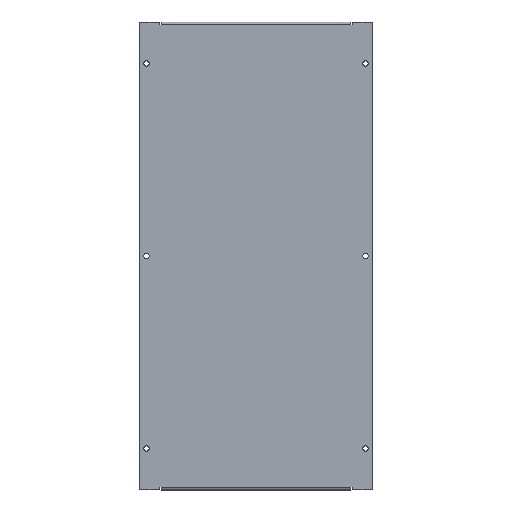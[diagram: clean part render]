
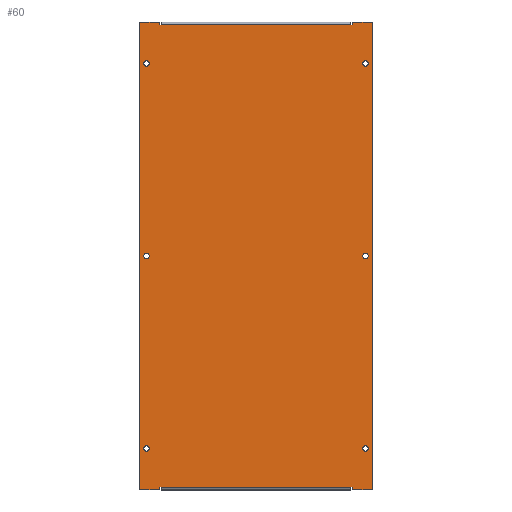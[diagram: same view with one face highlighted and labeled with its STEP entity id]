
A CAD part, top view. The second image highlights one B-rep face of the part: STEP entity #60.
In plain terms, the highlighted planar face has unit normal (0, 0, 1).
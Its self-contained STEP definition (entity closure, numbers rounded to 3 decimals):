
#60=ADVANCED_FACE('',(#166,#168,#170,#172,#174,#176,#178),#180,.F.);
#166=FACE_BOUND('',#167,.T.);
#167=EDGE_LOOP('',(#443,#444,#445,#446,#447,#448,#449,#450,#451,#452,#453,#454,#455,
#456,#457,#458));
#168=FACE_BOUND('',#169,.T.);
#169=EDGE_LOOP('',(#459));
#170=FACE_BOUND('',#171,.T.);
#171=EDGE_LOOP('',(#460));
#172=FACE_BOUND('',#173,.T.);
#173=EDGE_LOOP('',(#461));
#174=FACE_BOUND('',#175,.T.);
#175=EDGE_LOOP('',(#462));
#176=FACE_BOUND('',#177,.T.);
#177=EDGE_LOOP('',(#463));
#178=FACE_BOUND('',#179,.T.);
#179=EDGE_LOOP('',(#464));
#180=PLANE('',#181);
#181=AXIS2_PLACEMENT_3D('',#182,#183,#184);
#182=CARTESIAN_POINT('',(0.,0.,0.));
#183=DIRECTION('',(0.,0.,-1.));
#184=DIRECTION('',(-1.,0.,0.));
#443=ORIENTED_EDGE('',*,*,#621,.F.);
#444=ORIENTED_EDGE('',*,*,#622,.T.);
#445=ORIENTED_EDGE('',*,*,#623,.F.);
#446=ORIENTED_EDGE('',*,*,#624,.F.);
#447=ORIENTED_EDGE('',*,*,#625,.T.);
#448=ORIENTED_EDGE('',*,*,#626,.T.);
#449=ORIENTED_EDGE('',*,*,#627,.T.);
#450=ORIENTED_EDGE('',*,*,#628,.F.);
#451=ORIENTED_EDGE('',*,*,#629,.F.);
#452=ORIENTED_EDGE('',*,*,#630,.T.);
#453=ORIENTED_EDGE('',*,*,#631,.F.);
#454=ORIENTED_EDGE('',*,*,#632,.F.);
#455=ORIENTED_EDGE('',*,*,#633,.T.);
#456=ORIENTED_EDGE('',*,*,#634,.T.);
#457=ORIENTED_EDGE('',*,*,#635,.T.);
#458=ORIENTED_EDGE('',*,*,#636,.F.);
#459=ORIENTED_EDGE('',*,*,#593,.T.);
#460=ORIENTED_EDGE('',*,*,#595,.T.);
#461=ORIENTED_EDGE('',*,*,#597,.T.);
#462=ORIENTED_EDGE('',*,*,#599,.F.);
#463=ORIENTED_EDGE('',*,*,#601,.F.);
#464=ORIENTED_EDGE('',*,*,#603,.F.);
#593=EDGE_CURVE('',#685,#685,#686,.T.);
#595=EDGE_CURVE('',#689,#689,#690,.T.);
#597=EDGE_CURVE('',#693,#693,#694,.T.);
#599=EDGE_CURVE('',#697,#697,#698,.T.);
#601=EDGE_CURVE('',#701,#701,#702,.T.);
#603=EDGE_CURVE('',#705,#705,#706,.T.);
#621=EDGE_CURVE('',#741,#742,#743,.T.);
#622=EDGE_CURVE('',#741,#744,#745,.T.);
#623=EDGE_CURVE('',#746,#744,#747,.T.);
#624=EDGE_CURVE('',#748,#746,#749,.T.);
#625=EDGE_CURVE('',#748,#750,#751,.T.);
#626=EDGE_CURVE('',#750,#752,#753,.T.);
#627=EDGE_CURVE('',#752,#754,#755,.T.);
#628=EDGE_CURVE('',#756,#754,#757,.T.);
#629=EDGE_CURVE('',#758,#756,#759,.T.);
#630=EDGE_CURVE('',#758,#760,#761,.T.);
#631=EDGE_CURVE('',#762,#760,#763,.T.);
#632=EDGE_CURVE('',#764,#762,#765,.T.);
#633=EDGE_CURVE('',#764,#766,#767,.T.);
#634=EDGE_CURVE('',#766,#768,#769,.T.);
#635=EDGE_CURVE('',#768,#770,#771,.T.);
#636=EDGE_CURVE('',#742,#770,#772,.T.);
#685=VERTEX_POINT('',#837);
#686=CIRCLE('',#838,3.15);
#689=VERTEX_POINT('',#847);
#690=CIRCLE('',#848,3.15);
#693=VERTEX_POINT('',#857);
#694=CIRCLE('',#858,3.15);
#697=VERTEX_POINT('',#867);
#698=CIRCLE('',#868,3.15);
#701=VERTEX_POINT('',#877);
#702=CIRCLE('',#878,3.15);
#705=VERTEX_POINT('',#887);
#706=CIRCLE('',#888,3.15);
#741=VERTEX_POINT('',#961);
#742=VERTEX_POINT('',#962);
#743=LINE('',#963,#964);
#744=VERTEX_POINT('',#966);
#745=LINE('',#967,#968);
#746=VERTEX_POINT('',#970);
#747=LINE('',#971,#972);
#748=VERTEX_POINT('',#974);
#749=LINE('',#975,#976);
#750=VERTEX_POINT('',#978);
#751=LINE('',#979,#980);
#752=VERTEX_POINT('',#982);
#753=LINE('',#983,#984);
#754=VERTEX_POINT('',#986);
#755=LINE('',#987,#988);
#756=VERTEX_POINT('',#990);
#757=LINE('',#991,#992);
#758=VERTEX_POINT('',#994);
#759=LINE('',#995,#996);
#760=VERTEX_POINT('',#998);
#761=LINE('',#999,#1000);
#762=VERTEX_POINT('',#1002);
#763=LINE('',#1003,#1004);
#764=VERTEX_POINT('',#1006);
#765=LINE('',#1007,#1008);
#766=VERTEX_POINT('',#1010);
#767=LINE('',#1011,#1012);
#768=VERTEX_POINT('',#1014);
#769=LINE('',#1015,#1016);
#770=VERTEX_POINT('',#1018);
#771=LINE('',#1019,#1020);
#772=LINE('',#1022,#1023);
#837=CARTESIAN_POINT('',(131.15,225.,0.));
#838=AXIS2_PLACEMENT_3D('',#839,#840,#841);
#839=CARTESIAN_POINT('',(128.,225.,0.));
#840=DIRECTION('',(0.,0.,-1.));
#841=DIRECTION('',(1.,0.,0.));
#847=CARTESIAN_POINT('',(131.15,-225.,0.));
#848=AXIS2_PLACEMENT_3D('',#849,#850,#851);
#849=CARTESIAN_POINT('',(128.,-225.,0.));
#850=DIRECTION('',(0.,0.,-1.));
#851=DIRECTION('',(1.,0.,0.));
#857=CARTESIAN_POINT('',(131.15,0.,0.));
#858=AXIS2_PLACEMENT_3D('',#859,#860,#861);
#859=CARTESIAN_POINT('',(128.,0.,0.));
#860=DIRECTION('',(0.,0.,-1.));
#861=DIRECTION('',(1.,0.,0.));
#867=CARTESIAN_POINT('',(-124.85,225.,0.));
#868=AXIS2_PLACEMENT_3D('',#869,#870,#871);
#869=CARTESIAN_POINT('',(-128.,225.,0.));
#870=DIRECTION('',(0.,0.,1.));
#871=DIRECTION('',(-1.,0.,0.));
#877=CARTESIAN_POINT('',(-124.85,-225.,0.));
#878=AXIS2_PLACEMENT_3D('',#879,#880,#881);
#879=CARTESIAN_POINT('',(-128.,-225.,0.));
#880=DIRECTION('',(0.,0.,1.));
#881=DIRECTION('',(-1.,0.,0.));
#887=CARTESIAN_POINT('',(-124.85,0.,0.));
#888=AXIS2_PLACEMENT_3D('',#889,#890,#891);
#889=CARTESIAN_POINT('',(-128.,0.,0.));
#890=DIRECTION('',(0.,0.,1.));
#891=DIRECTION('',(-1.,0.,0.));
#961=CARTESIAN_POINT('',(111.,270.3,0.));
#962=CARTESIAN_POINT('',(113.,270.3,0.));
#963=CARTESIAN_POINT('',(111.,270.3,0.));
#964=VECTOR('',#965,1.);
#965=DIRECTION('',(1.,0.,0.));
#966=CARTESIAN_POINT('',(-111.,270.3,0.));
#967=CARTESIAN_POINT('',(111.,270.3,0.));
#968=VECTOR('',#969,1.);
#969=DIRECTION('',(-1.,0.,0.));
#970=CARTESIAN_POINT('',(-113.,270.3,0.));
#971=CARTESIAN_POINT('',(-113.,270.3,0.));
#972=VECTOR('',#973,1.);
#973=DIRECTION('',(1.,0.,0.));
#974=CARTESIAN_POINT('',(-113.,273.5,0.));
#975=CARTESIAN_POINT('',(-113.,273.5,0.));
#976=VECTOR('',#977,1.);
#977=DIRECTION('',(0.,-1.,0.));
#978=CARTESIAN_POINT('',(-136.,273.5,0.));
#979=CARTESIAN_POINT('',(-113.,273.5,0.));
#980=VECTOR('',#981,1.);
#981=DIRECTION('',(-1.,0.,0.));
#982=CARTESIAN_POINT('',(-136.,-273.5,0.));
#983=CARTESIAN_POINT('',(-136.,273.5,0.));
#984=VECTOR('',#985,1.);
#985=DIRECTION('',(0.,-1.,0.));
#986=CARTESIAN_POINT('',(-113.,-273.5,0.));
#987=CARTESIAN_POINT('',(-136.,-273.5,0.));
#988=VECTOR('',#989,1.);
#989=DIRECTION('',(1.,0.,0.));
#990=CARTESIAN_POINT('',(-113.,-270.3,0.));
#991=CARTESIAN_POINT('',(-113.,-270.3,0.));
#992=VECTOR('',#993,1.);
#993=DIRECTION('',(0.,-1.,0.));
#994=CARTESIAN_POINT('',(-111.,-270.3,0.));
#995=CARTESIAN_POINT('',(-111.,-270.3,0.));
#996=VECTOR('',#997,1.);
#997=DIRECTION('',(-1.,0.,0.));
#998=CARTESIAN_POINT('',(111.,-270.3,0.));
#999=CARTESIAN_POINT('',(-111.,-270.3,0.));
#1000=VECTOR('',#1001,1.);
#1001=DIRECTION('',(1.,0.,0.));
#1002=CARTESIAN_POINT('',(113.,-270.3,0.));
#1003=CARTESIAN_POINT('',(113.,-270.3,0.));
#1004=VECTOR('',#1005,1.);
#1005=DIRECTION('',(-1.,0.,0.));
#1006=CARTESIAN_POINT('',(113.,-273.5,0.));
#1007=CARTESIAN_POINT('',(113.,-273.5,0.));
#1008=VECTOR('',#1009,1.);
#1009=DIRECTION('',(0.,1.,0.));
#1010=CARTESIAN_POINT('',(136.,-273.5,0.));
#1011=CARTESIAN_POINT('',(113.,-273.5,0.));
#1012=VECTOR('',#1013,1.);
#1013=DIRECTION('',(1.,0.,0.));
#1014=CARTESIAN_POINT('',(136.,273.5,0.));
#1015=CARTESIAN_POINT('',(136.,-273.5,0.));
#1016=VECTOR('',#1017,1.);
#1017=DIRECTION('',(0.,1.,0.));
#1018=CARTESIAN_POINT('',(113.,273.5,0.));
#1019=CARTESIAN_POINT('',(136.,273.5,0.));
#1020=VECTOR('',#1021,1.);
#1021=DIRECTION('',(-1.,0.,0.));
#1022=CARTESIAN_POINT('',(113.,270.3,0.));
#1023=VECTOR('',#1024,1.);
#1024=DIRECTION('',(0.,1.,0.));
